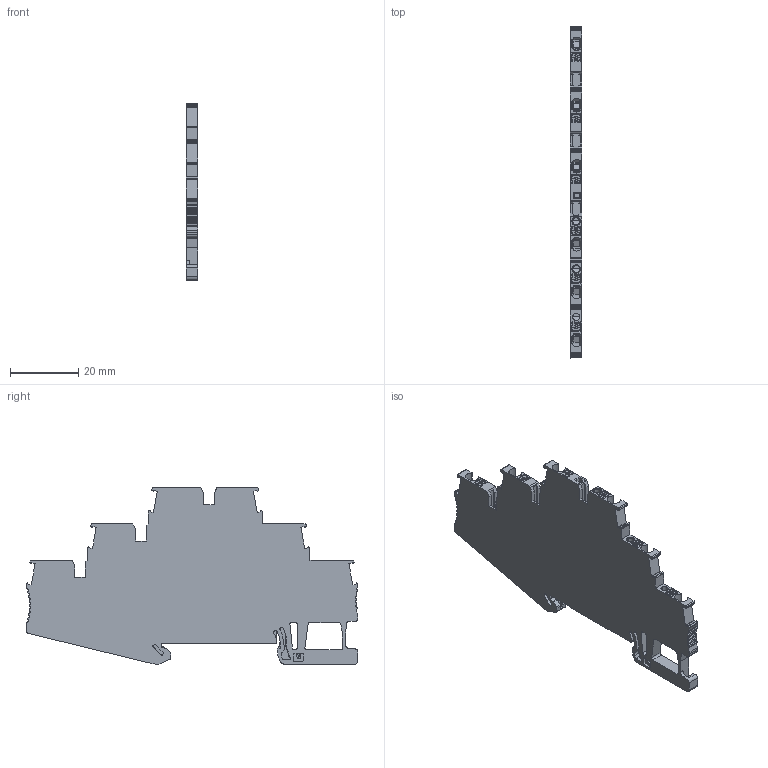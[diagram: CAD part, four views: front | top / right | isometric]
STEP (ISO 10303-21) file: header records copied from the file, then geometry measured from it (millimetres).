
FILE_DESCRIPTION((''),'2;1');
FILE_NAME('UPT-1_5PE-L-L','2024-03-29T16:19:35',('Administrator'),(''),'CREO PARAMETRIC BY PTC INC, 2018050','CREO PARAMETRIC BY PTC INC, 2018050','');
FILE_SCHEMA(('CONFIG_CONTROL_DESIGN'));
Products named in the file (1): UPT-1_5PE-L-L
Bounding box: 3.5 x 97.25 x 51.7 mm (x, y, z)
Volume: 10807.6 mm3; surface area: 10202.4 mm2
Topology: 1 solids, 8 shells, 1944 faces, 5297 edges, 3303 vertices
Faces by surface type: plane 900, cylinder 751, sphere 96, torus 77, cone 72, extrusion 27, bspline 21
Entity records: 65638 total; most frequent: CARTESIAN_POINT 16561, ORIENTED_EDGE 10438, DIRECTION 10213, EDGE_CURVE 5219, AXIS2_PLACEMENT_3D 3483, VERTEX_POINT 3303, VECTOR 3247, LINE 3220
